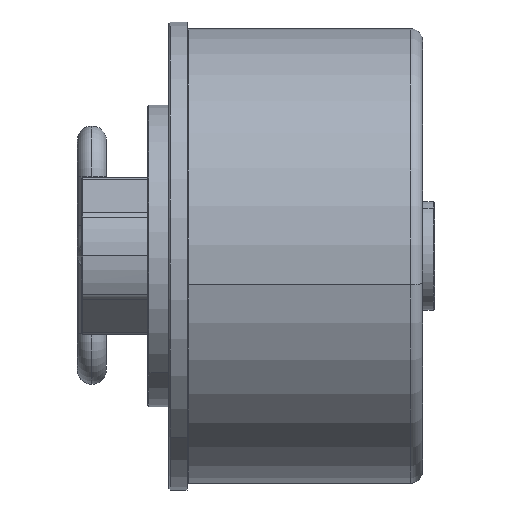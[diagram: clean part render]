
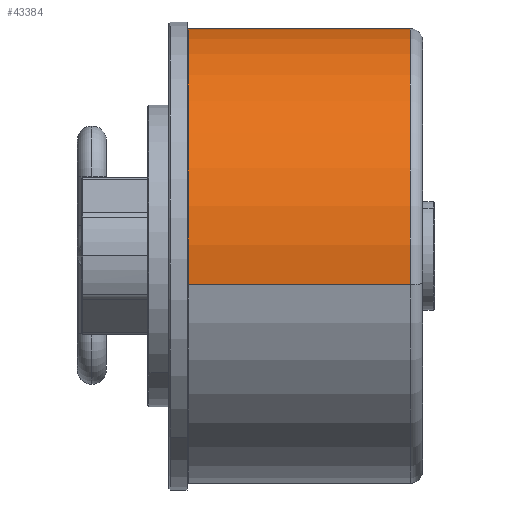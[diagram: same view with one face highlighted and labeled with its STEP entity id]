
A CAD part, left-side view. The second image highlights one B-rep face of the part: STEP entity #43384.
In plain terms, the highlighted cylindrical face has radius 37.7 mm (diameter 75.4 mm), a partial arc.
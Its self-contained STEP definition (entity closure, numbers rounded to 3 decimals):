
#1001 = EDGE_LOOP ( 'NONE', ( #10987, #11222, #58026, #9830 ) ) ;
#3549 = VERTEX_POINT ( 'NONE', #30323 ) ;
#5416 = DIRECTION ( 'NONE',  ( 0.992, 0., 0.126 ) ) ;
#6710 = EDGE_CURVE ( 'NONE', #3549, #43308, #34060, .T. ) ;
#9009 = CARTESIAN_POINT ( 'NONE',  ( 0., 18., 0. ) ) ;
#9830 = ORIENTED_EDGE ( 'NONE', *, *, #38324, .T. ) ;
#10987 = ORIENTED_EDGE ( 'NONE', *, *, #12237, .F. ) ;
#11222 = ORIENTED_EDGE ( 'NONE', *, *, #55252, .T. ) ;
#12237 = EDGE_CURVE ( 'NONE', #54046, #53097, #18206, .T. ) ;
#17865 = DIRECTION ( 'NONE',  ( 0., 1., 0. ) ) ;
#18174 = AXIS2_PLACEMENT_3D ( 'NONE', #9009, #35733, #40481 ) ;
#18206 = LINE ( 'NONE', #21710, #56279 ) ;
#19127 = DIRECTION ( 'NONE',  ( 0., -1., 0. ) ) ;
#21710 = CARTESIAN_POINT ( 'NONE',  ( -37.399, 18., -4.754 ) ) ;
#22090 = DIRECTION ( 'NONE',  ( 0., 1., 0. ) ) ;
#22171 = CYLINDRICAL_SURFACE ( 'NONE', #18174, 37.7 ) ;
#26189 = CIRCLE ( 'NONE', #52640, 37.7 ) ;
#30323 = CARTESIAN_POINT ( 'NONE',  ( 37.399, -16., 4.754 ) ) ;
#31370 = DIRECTION ( 'NONE',  ( -0.992, 0., -0.126 ) ) ;
#32270 = CARTESIAN_POINT ( 'NONE',  ( 0., 20.8, 0. ) ) ;
#34060 = LINE ( 'NONE', #47140, #47515 ) ;
#35733 = DIRECTION ( 'NONE',  ( 0., 1., 0. ) ) ;
#35962 = CARTESIAN_POINT ( 'NONE',  ( 0., -16., 0. ) ) ;
#37966 = CIRCLE ( 'NONE', #38101, 37.7 ) ;
#38101 = AXIS2_PLACEMENT_3D ( 'NONE', #35962, #17865, #31370 ) ;
#38104 = CARTESIAN_POINT ( 'NONE',  ( -37.399, -16., -4.754 ) ) ;
#38324 = EDGE_CURVE ( 'NONE', #43308, #53097, #26189, .T. ) ;
#40481 = DIRECTION ( 'NONE',  ( 0.992, 0., 0.126 ) ) ;
#43308 = VERTEX_POINT ( 'NONE', #57088 ) ;
#43384 = ADVANCED_FACE ( 'NONE', ( #51164 ), #22171, .T. ) ;
#47140 = CARTESIAN_POINT ( 'NONE',  ( 37.399, 18., 4.754 ) ) ;
#47515 = VECTOR ( 'NONE', #51628, 1000. ) ;
#51164 = FACE_OUTER_BOUND ( 'NONE', #1001, .T. ) ;
#51628 = DIRECTION ( 'NONE',  ( 0., 1., 0. ) ) ;
#52640 = AXIS2_PLACEMENT_3D ( 'NONE', #32270, #19127, #5416 ) ;
#53097 = VERTEX_POINT ( 'NONE', #57763 ) ;
#54046 = VERTEX_POINT ( 'NONE', #38104 ) ;
#55252 = EDGE_CURVE ( 'NONE', #54046, #3549, #37966, .T. ) ;
#56279 = VECTOR ( 'NONE', #22090, 1000. ) ;
#57088 = CARTESIAN_POINT ( 'NONE',  ( 37.399, 20.8, 4.754 ) ) ;
#57763 = CARTESIAN_POINT ( 'NONE',  ( -37.399, 20.8, -4.754 ) ) ;
#58026 = ORIENTED_EDGE ( 'NONE', *, *, #6710, .T. ) ;
